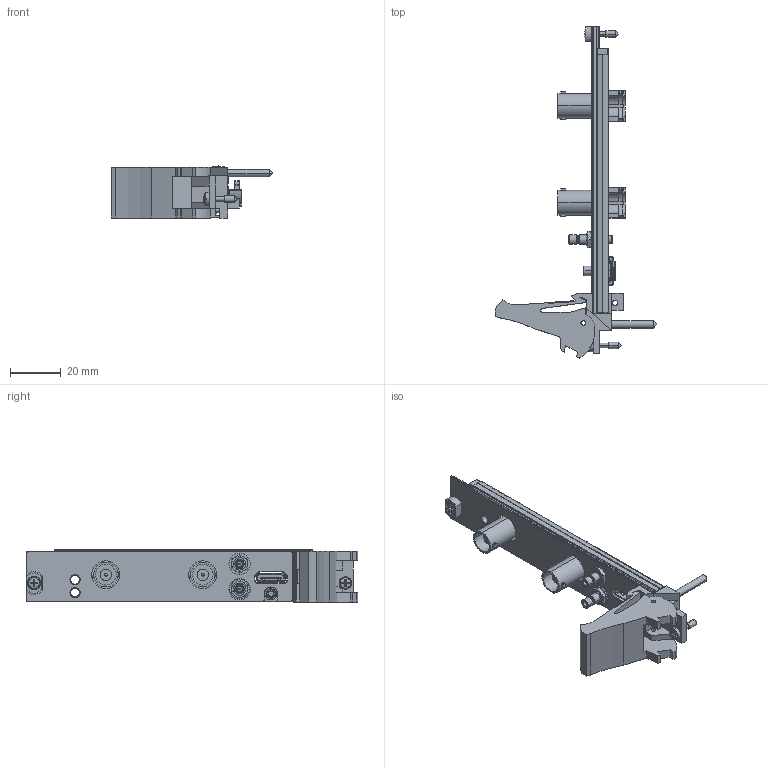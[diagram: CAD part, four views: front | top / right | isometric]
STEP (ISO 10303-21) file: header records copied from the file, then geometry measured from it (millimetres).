
FILE_DESCRIPTION((''),'2;1');
FILE_NAME('CU_PXIE-5164','2017-05-02T',('jjorden'),(''),'CREO PARAMETRIC BY PTC INC, 2015380','CREO PARAMETRIC BY PTC INC, 2015380','');
FILE_SCHEMA(('CONFIG_CONTROL_DESIGN'));
Length unit declared in the file: inch
Products named in the file (1): CU_PXIE-5164
Bounding box: 63.53 x 130.52 x 20.46 mm (x, y, z)
Volume: 17141.3 mm3; surface area: 20208.1 mm2
Topology: 4 solids, 4 shells, 2066 faces, 5735 edges, 3728 vertices
Faces by surface type: plane 1377, cylinder 574, cone 62, torus 24, bspline 23, sphere 4, extrusion 2
Entity records: 68592 total; most frequent: CARTESIAN_POINT 14789, ORIENTED_EDGE 11458, DIRECTION 10864, EDGE_CURVE 5729, VECTOR 4240, LINE 4238, VERTEX_POINT 3728, AXIS2_PLACEMENT_3D 3312
